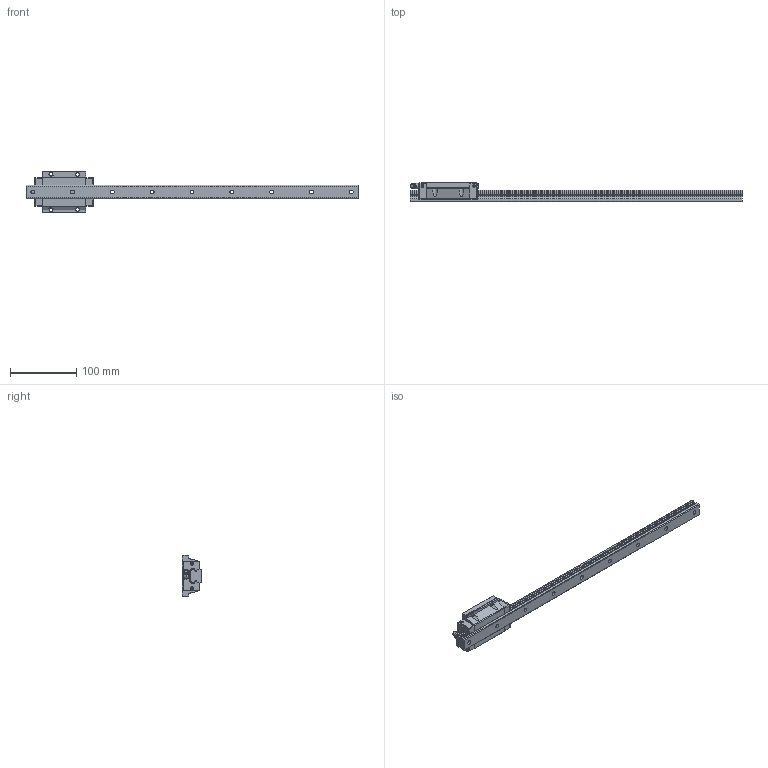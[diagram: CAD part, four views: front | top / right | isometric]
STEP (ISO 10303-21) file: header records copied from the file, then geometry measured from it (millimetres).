
FILE_DESCRIPTION(/* description */ ('STEP AP214'),/* implementation_level */ '2;1');
FILE_NAME(/* name */ 'D:\Katalogi inne\Technika liniowa\NATECH\Modele 3D\NATECH linear block 3D drawing\NGW\NGW20HC\NGW20HA1R500.stp',/* time_stamp */ '2026-03-24T12:56:35+01:00',/* author */ ('dnia_tomasz_tm'),/* organization */ (''),/* preprocessor_version */ 'ST-DEVELOPER v16.13',/* originating_system */ 'Autodesk Inventor 2018',/* authorisation */ ' ');
FILE_SCHEMA (('AUTOMOTIVE_DESIGN { 1 0 10303 214 3 1 1 }'));
Length unit declared in the file: millimetre
Products named in the file (8): NGW20HA1R500; GHR20R500C+RC-10_10(1)_RAIL; GHW20HA_SLIDER; GH20_BOLT; GHW20HA_C; GHW20HA_P; GH20_SCREW; GH20-_G
Assembly tree (12 placements, depth 2):
  NGW20HA1R500
    GHR20R500C+RC-10_10(1)_RAIL
    GHW20HA_SLIDER
    GHW20HA_C  x2
    GHW20HA_P  x2
    GH20_SCREW  x4
    GH20_BOLT
    GH20-_G
Bounding box: 500 x 30 x 63 mm (x, y, z)
Volume: 242641.8 mm3; surface area: 68741.1 mm2
Topology: 12 solids, 12 shells, 462 faces, 1201 edges, 790 vertices
Faces by surface type: plane 347, cylinder 75, cone 24, torus 10, sphere 5, bspline 1
Full cylindrical faces by diameter (mm): 0.53 x4, 3.414 x4, 3.93 x6, 4.5 x1, 4.917 x4, 6 x11, 8 x1, 8.2 x1, 9.5 x9
Entity records: 9066 total; most frequent: CARTESIAN_POINT 1606, DIRECTION 1464, ORIENTED_EDGE 1412, EDGE_CURVE 706, LINE 518, VECTOR 518, VERTEX_POINT 495, AXIS2_PLACEMENT_3D 473
